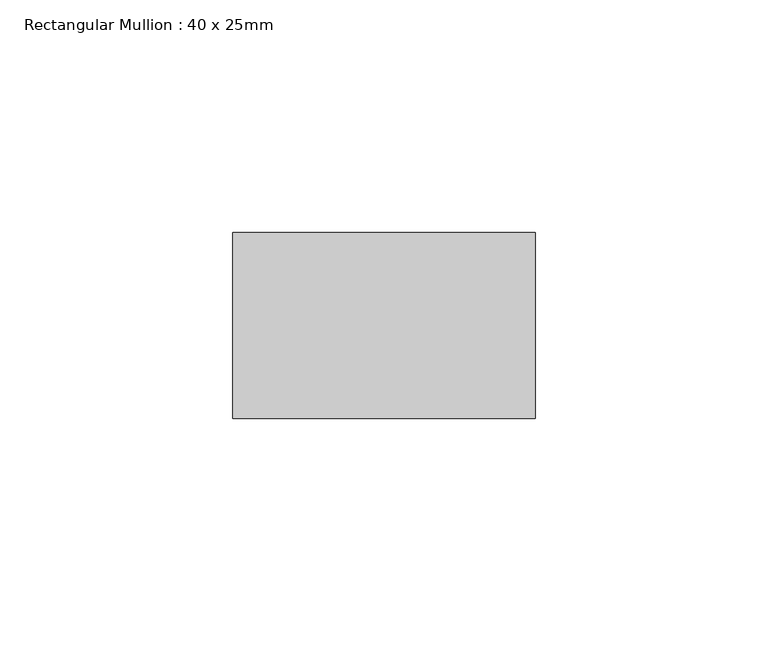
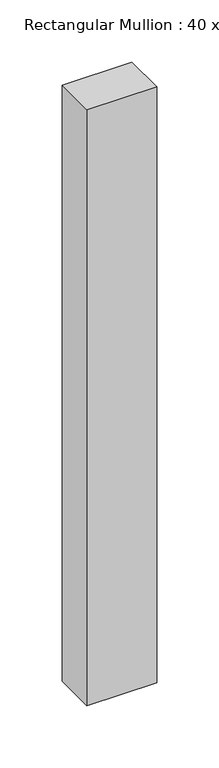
"""IFC4 building model written with IfcOpenShell, lengths in millimetres: member geometry, Rectangular Mullion : 40 x 25mm."""

import ifcopenshell
import ifcopenshell.guid

model = None  # the IFC model being written
_history = None  # IfcOwnerHistory: only IFC2X3 demands one
_inside = {}  # id of a spatial element -> (the spatial element, [elements in it])
_under = {}  # id of a project, library or spatial element -> (it, [spatial elements below it])
_declared = {}  # id of a project -> (the project, [libraries it declares])
_typed = {}  # id of a type object -> (the type object, [elements of that type])
_made_of = {}  # id of a material, layer set ... -> (it, [elements and type objects made of it])


def new_model(schema):
    """Start an empty IFC model of exactly this schema.

    Asked for "IFC4X3", IfcOpenShell would pick the latest addendum, in which some entities
    have other attributes; the version numbers below select the first issue.
    IFC2X3 requires an IfcOwnerHistory on every rooted entity: one is made here for all.
    """
    global model, _history
    if schema == "IFC4X3":
        model = ifcopenshell.file(schema_version=(4, 3, 0, 0))
    else:
        model = ifcopenshell.file(schema=schema)
    _inside.clear()
    _under.clear()
    _declared.clear()
    _typed.clear()
    _made_of.clear()
    _history = None
    if model.schema == "IFC2X3":
        org = make("IfcOrganization", Name="unknown")
        user = make(
            "IfcPersonAndOrganization",
            ThePerson=make("IfcPerson", FamilyName="unknown"),
            TheOrganization=org,
        )
        app = make(
            "IfcApplication",
            ApplicationDeveloper=org,
            Version="unknown",
            ApplicationFullName="unknown",
            ApplicationIdentifier="unknown",
        )
        _history = make(
            "IfcOwnerHistory",
            OwningUser=user,
            OwningApplication=app,
            ChangeAction="ADDED",
            CreationDate=0,
        )
    return model


def make(cls, **values):
    """One entity of the class cls with the attributes given. An attribute that is None is left unset."""
    return model.create_entity(
        cls, **{name: value for name, value in values.items() if value is not None}
    )


def rooted(cls, **values):
    """An entity with a GlobalId (a new one), such as an element, a storey or a relation."""
    return make(cls, GlobalId=ifcopenshell.guid.new(), OwnerHistory=_history, **values)


def si_unit(unit_type, name, prefix=None):
    """IfcSIUnit, for example si_unit("LENGTHUNIT", "METRE", prefix="MILLI")."""
    return make("IfcSIUnit", UnitType=unit_type, Prefix=prefix, Name=name)


def assignment(units):
    """IfcUnitAssignment: the units of a project."""
    return None if units is None else make("IfcUnitAssignment", Units=units)


def point(xyz):
    """IfcCartesianPoint."""
    return None if xyz is None else make("IfcCartesianPoint", Coordinates=xyz)


def direction(xyz):
    """IfcDirection."""
    return None if xyz is None else make("IfcDirection", DirectionRatios=xyz)


def frame(location, z_axis=None, x_axis=None):
    """IfcAxis2Placement3D, a coordinate frame: its origin and axes. An axis left out is left unset."""
    return make(
        "IfcAxis2Placement3D",
        Location=point(location),
        Axis=direction(z_axis),
        RefDirection=direction(x_axis),
    )


def origin():
    """The frame at (0, 0, 0) with its axes left unset."""
    return frame((0.0, 0.0, 0.0))


def place(relative_to, where):
    """IfcLocalPlacement: puts the frame where relative to a parent placement (None: the world)."""
    return make(
        "IfcLocalPlacement", PlacementRelTo=relative_to, RelativePlacement=where
    )


def context(
    kind, dimensions, precision=None, world=None, true_north=None, identifier=None
):
    """IfcGeometricRepresentationContext, for example the 3D "Model" context."""
    return make(
        "IfcGeometricRepresentationContext",
        ContextIdentifier=identifier,
        ContextType=kind,
        CoordinateSpaceDimension=dimensions,
        Precision=precision,
        WorldCoordinateSystem=world,
        TrueNorth=true_north,
    )


def project(units=None, contexts=None):
    """IfcProject with its units and contexts."""
    return rooted(
        "IfcProject",
        Name="project",
        RepresentationContexts=contexts,
        UnitsInContext=assignment(units),
    )


def spatial(cls, under=None, at=None, **own):
    """A site, building, storey or space (cls), placed at a placement, below another one or the project."""
    s = rooted(cls, ObjectPlacement=at, **own)
    if under is not None:
        _under.setdefault(under.id(), (under, []))[1].append(s)
    return s


def polyline(points):
    """IfcPolyline through the points."""
    return make("IfcPolyline", Points=[point(p) for p in points])


def outline(outer, holes=None, kind="AREA"):
    """IfcArbitraryClosedProfileDef: a profile drawn as a closed curve; with holes, ...WithVoids."""
    if holes is None:
        return make("IfcArbitraryClosedProfileDef", ProfileType=kind, OuterCurve=outer)
    return make(
        "IfcArbitraryProfileDefWithVoids",
        ProfileType=kind,
        OuterCurve=outer,
        InnerCurves=holes,
    )


def extrude(swept, where, along, depth):
    """IfcExtrudedAreaSolid: the profile swept, set in the frame where, extruded along a direction by depth."""
    return make(
        "IfcExtrudedAreaSolid",
        SweptArea=swept,
        Position=where,
        ExtrudedDirection=direction(along),
        Depth=depth,
    )


def shape(context_of_items, identifier, shape_type, items):
    """IfcShapeRepresentation: the items that make up one representation, for example the "Body"."""
    return make(
        "IfcShapeRepresentation",
        ContextOfItems=context_of_items,
        RepresentationIdentifier=identifier,
        RepresentationType=shape_type,
        Items=items,
    )


def source(mapping_origin, context_of_items, identifier, shape_type, items):
    """IfcRepresentationMap: a shape defined once, which mapped items show again and again."""
    return make(
        "IfcRepresentationMap",
        MappingOrigin=mapping_origin,
        MappedRepresentation=shape(context_of_items, identifier, shape_type, items),
    )


def transform(
    local_origin,
    x_axis=None,
    y_axis=None,
    z_axis=None,
    scale=None,
    scale2=None,
    scale3=None,
    uniform=True,
):
    """IfcCartesianTransformationOperator3D, or its non-uniform kind. x_axis, y_axis, z_axis: its Axis1, 2, 3."""
    if uniform:
        return make(
            "IfcCartesianTransformationOperator3D",
            Axis1=direction(x_axis),
            Axis2=direction(y_axis),
            LocalOrigin=point(local_origin),
            Scale=scale,
            Axis3=direction(z_axis),
        )
    return make(
        "IfcCartesianTransformationOperator3DnonUniform",
        Axis1=direction(x_axis),
        Axis2=direction(y_axis),
        LocalOrigin=point(local_origin),
        Scale=scale,
        Axis3=direction(z_axis),
        Scale2=scale2,
        Scale3=scale3,
    )


def mapped(mapping_source, mapping_target):
    """IfcMappedItem: shows the shape of a source again, moved by a transform."""
    return make(
        "IfcMappedItem", MappingSource=mapping_source, MappingTarget=mapping_target
    )


def made_of(thing, what):
    """Note that an element or type object is made of a material, layer set ...; save() writes the relation."""
    if what is not None:
        _made_of.setdefault(what.id(), (what, []))[1].append(thing)
    return thing


def element(
    cls,
    number,
    at=None,
    inside=None,
    cuts=None,
    type_object=None,
    material=None,
    context=None,
    identifier="Body",
    shape_type=None,
    held_by="IfcProductDefinitionShape",
    body=None,
    shapes=None,
    **own,
):
    """One element of the class cls, such as IfcWall. Its Tag is "e" and its number.

    at: its placement. inside: the storey or other place that contains it. cuts: it is an
    opening in that element (IfcRelVoidsElement). A single representation is given by context,
    identifier, shape_type and body (its items); several are given by shapes. held_by: the class
    of the entity that holds the representations. save() writes the other relations.
    """
    e = rooted(cls, Tag="e%d" % number, ObjectPlacement=at, **own)
    if body is not None:
        shapes = [shape(context, identifier, shape_type, body)]
    if shapes is not None:
        e.Representation = make(held_by, Representations=shapes)
    if inside is not None:
        _inside.setdefault(inside.id(), (inside, []))[1].append(e)
    if cuts is not None:
        rooted(
            "IfcRelVoidsElement", RelatingBuildingElement=cuts, RelatedOpeningElement=e
        )
    if type_object is not None:
        _typed.setdefault(type_object.id(), (type_object, []))[1].append(e)
    return made_of(e, material)


def aggregate(whole, parts):
    """IfcRelAggregates: a whole, such as a stair, and the parts it consists of."""
    return rooted("IfcRelAggregates", RelatingObject=whole, RelatedObjects=parts)


def save(model, path):
    """Write the relations noted so far, then the file.

    IfcRelAggregates (storeys below a building ...), IfcRelContainedInSpatialStructure (elements
    in a storey), IfcRelDefinesByType, IfcRelAssociatesMaterial and IfcRelDeclares: one each for
    every whole, place, type object, material and project.
    """
    for whole, parts in _under.values():
        aggregate(whole, parts)
    for where, things in _inside.values():
        rooted(
            "IfcRelContainedInSpatialStructure",
            RelatedElements=things,
            RelatingStructure=where,
        )
    for kind, things in _typed.values():
        rooted("IfcRelDefinesByType", RelatedObjects=things, RelatingType=kind)
    for what, things in _made_of.values():
        rooted("IfcRelAssociatesMaterial", RelatedObjects=things, RelatingMaterial=what)
    for by, libraries in _declared.values():
        rooted("IfcRelDeclares", RelatingContext=by, RelatedDefinitions=libraries)
    model.write(path)


def rectangular_mullion_40_x_25mm_20018b5e(model_context):
    return source(origin(), model_context, "Body", "SweptSolid", [
        extrude(outline(polyline([(0.0, -20.0), (0.0, -60.0), (-65.0, -60.0), (-65.0, -20.0), (0.0, -20.0)])), frame((0.0, 0.0, -586.8922282), z_axis=(0.0, 0.0, 1.0), x_axis=(1.0, 0.0, 0.0)), (0.0, 0.0, 1.0), 586.8922282),
    ])


if __name__ == "__main__":
    model = new_model("IFC4")
    model_context = context("Model", 3, world=origin())
    ifc_project = project(units=[si_unit("LENGTHUNIT", "METRE", prefix="MILLI")], contexts=[model_context])
    site = spatial("IfcSite", under=ifc_project)
    building = spatial("IfcBuilding", under=site)
    placement = place(None, origin())
    rectangular_mullion_40_x_25mm_shape = rectangular_mullion_40_x_25mm_20018b5e(model_context)
    element("IfcMember", 1, ObjectType="Rectangular Mullion : 40 x 25mm", at=placement, inside=building, context=model_context, shape_type="MappedRepresentation", body=[
        mapped(rectangular_mullion_40_x_25mm_shape, transform((0.0, 0.0, 0.0), x_axis=(1.0, 0.0, 0.0), y_axis=(0.0, 1.0, 0.0), z_axis=(0.0, 0.0, 1.0))),
    ])
    save(model, "model.ifc")
